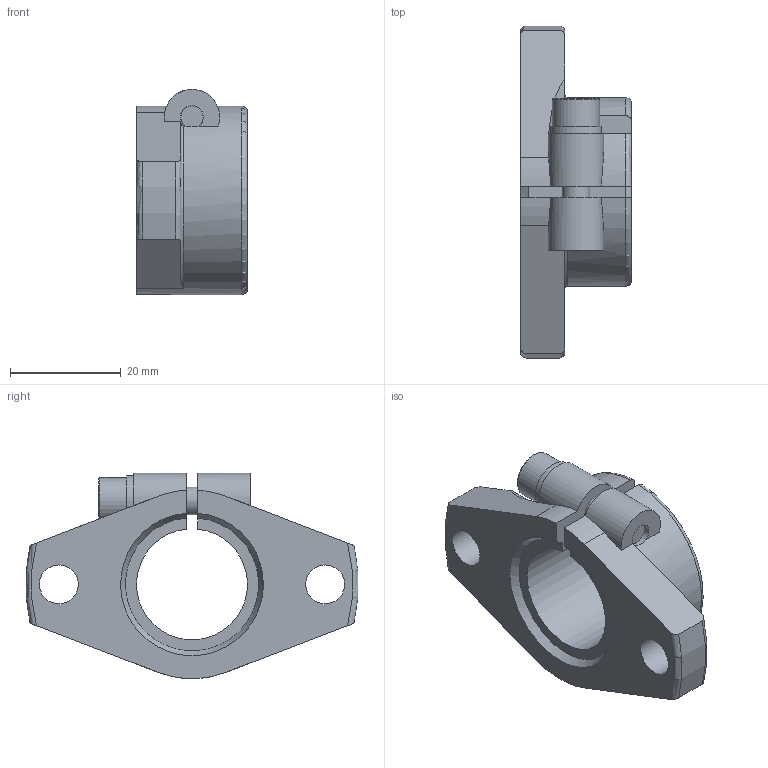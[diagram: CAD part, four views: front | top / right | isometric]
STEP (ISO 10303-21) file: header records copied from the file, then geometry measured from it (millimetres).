
FILE_DESCRIPTION((''),'2;1');
FILE_NAME('D:\製品 (図面)\カタログ用3D\シャフトブロック関連\STEP形式\SF\SF20.stp','2010-06-01T16:25:16',('Tsuchiya'),(''),'Autodesk Inventor 10','Autodesk Inventor 10','');
FILE_SCHEMA(('AUTOMOTIVE_DESIGN { 1 0 10303 214 1 1 1 1 }'));
Length unit declared in the file: millimetre
Products named in the file (1): SF20
Bounding box: 20 x 59.82 x 37 mm (x, y, z)
Volume: 15910.8 mm3; surface area: 7071.2 mm2
Topology: 1 solids, 1 shells, 56 faces, 152 edges, 101 vertices
Faces by surface type: plane 25, cylinder 15, torus 7, bspline 5, cone 4
Full cylindrical faces by diameter (mm): 5 x1, 7 x2, 8.5 x1, 9.2 x1
Entity records: 2079 total; most frequent: CARTESIAN_POINT 759, ORIENTED_EDGE 270, DIRECTION 257, EDGE_CURVE 135, AXIS2_PLACEMENT_3D 102, VERTEX_POINT 94, EDGE_LOOP 75, FACE_OUTER_BOUND 56
